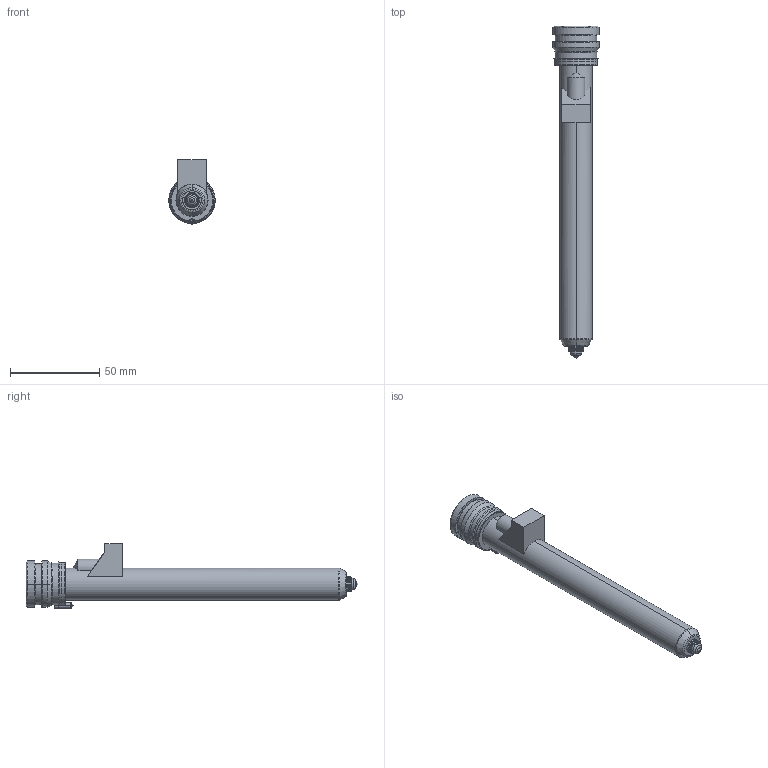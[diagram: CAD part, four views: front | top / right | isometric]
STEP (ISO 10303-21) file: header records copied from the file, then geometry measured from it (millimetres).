
FILE_DESCRIPTION((''),'2;1');
FILE_NAME('TH18167_5-M-1B15-PK-JG','2023-12-14T',('umhib'),('Thermoplay S.p.A.'),'PRO/ENGINEER BY PARAMETRIC TECHNOLOGY CORPORATION, 2017170','PRO/ENGINEER BY PARAMETRIC TECHNOLOGY CORPORATION, 2017170','');
FILE_SCHEMA(('CONFIG_CONTROL_DESIGN'));
Length unit declared in the file: millimetre
Products named in the file (1): TH18167_5-M-1B15-PK-JG
Bounding box: 26 x 185.5 x 36.1 mm (x, y, z)
Volume: 36914.5 mm3; surface area: 27834.6 mm2
Topology: 1 solids, 2 shells, 393 faces, 1003 edges, 615 vertices
Faces by surface type: cylinder 149, plane 87, cone 64, torus 58, bspline 22, sphere 11, extrusion 2
Entity records: 16871 total; most frequent: CARTESIAN_POINT 5188, DIRECTION 2010, ORIENTED_EDGE 1980, EDGE_CURVE 992, AXIS2_PLACEMENT_3D 810, VERTEX_POINT 615, CIRCLE 440, EDGE_LOOP 416
